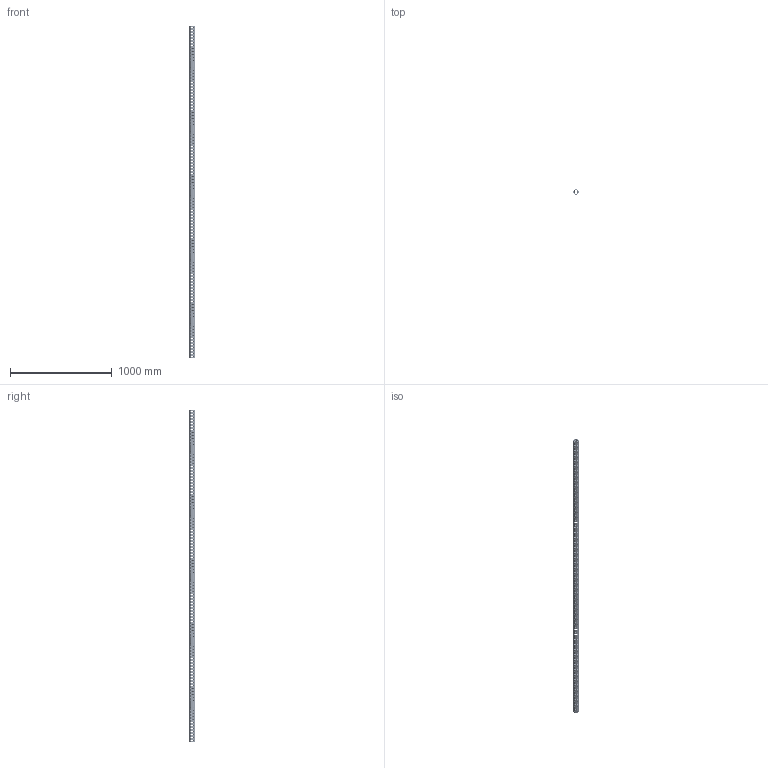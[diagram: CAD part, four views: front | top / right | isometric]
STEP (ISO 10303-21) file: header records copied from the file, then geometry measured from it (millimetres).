
FILE_DESCRIPTION(('CATIA V5 STEP Exchange'),'2;1');
FILE_NAME('U:\Room\唐宝山\EGT002\46-01-010338-01-EGT002-3268.stp','2021-08-24T07:26:56+00:00',('none'),('none'),'CATIA Version 5 Release 21 GA (IN-10)','CATIA V5 STEP AP203','none');
FILE_SCHEMA(('CONFIG_CONTROL_DESIGN'));
Products named in the file (1): 46-01-010338-01-EGT002-3268
Bounding box: 50 x 50 x 3268 mm (x, y, z)
Volume: 2328589.2 mm3; surface area: 1121501.6 mm2
Topology: 1 solids, 1 shells, 4444 faces, 12236 edges, 7576 vertices
Faces by surface type: cone 2616, cylinder 1802, plane 26
Entity records: 189085 total; most frequent: CARTESIAN_POINT 82208, ORIENTED_EDGE 24472, DIRECTION 16960, EDGE_CURVE 12236, AXIS2_PLACEMENT_3D 7809, VERTEX_POINT 7576, EDGE_LOOP 5972, VECTOR 4708
